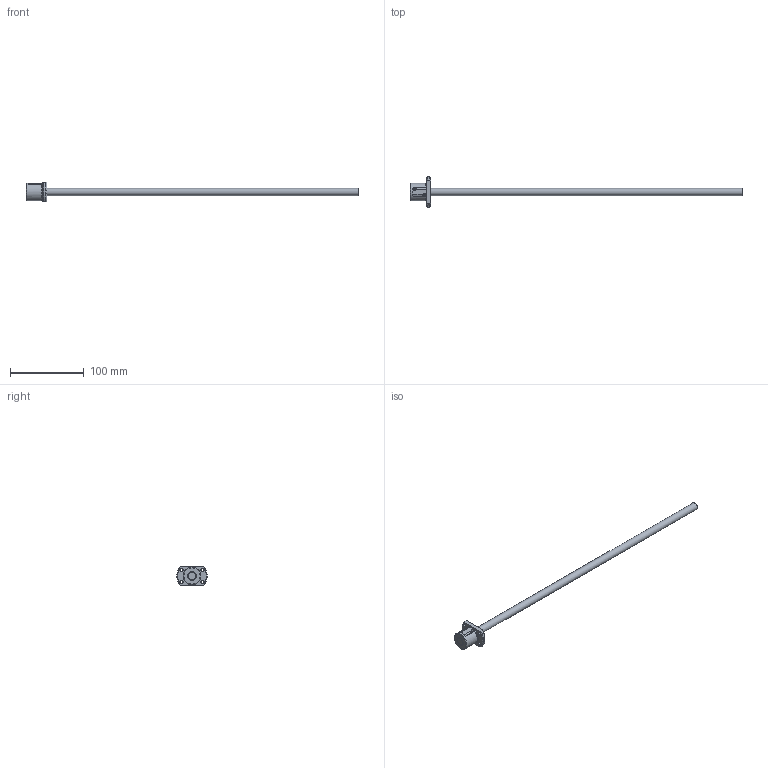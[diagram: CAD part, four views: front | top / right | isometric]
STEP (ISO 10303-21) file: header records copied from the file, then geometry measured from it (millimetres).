
FILE_DESCRIPTION( ( 'STEP AP203' ), '1' );
FILE_NAME( 'e:/temp/worker_101/temp/exporttempdir_1584_1732_41sAR/format_0/SR1004-450R450C10(0).stp', '2021-10-19T03:59:07', ( 'License CC BY-ND 4.0' ), ( 'CADENAS' ), ' ', 'PARTsolutions', ' ' );
FILE_SCHEMA( ( 'CONFIG_CONTROL_DESIGN' ) );
Length unit declared in the file: millimetre
Products named in the file (3): SR1004-450R450C10(0); _SR1004C10(0)_shaft; _SR1004C10_nut
Assembly tree (2 placements, depth 2):
  SR1004-450R450C10(0)
    _SR1004C10(0)_shaft
    _SR1004C10_nut
Bounding box: 450 x 41 x 26 mm (x, y, z)
Volume: 47802.1 mm3; surface area: 19449.7 mm2
Topology: 2 solids, 2 shells, 50 faces, 125 edges, 82 vertices
Faces by surface type: plane 25, cylinder 20, cone 5
Full cylindrical faces by diameter (mm): 4.5 x4, 10 x2, 12.4 x2, 23.5 x1, 24 x1
Entity records: 1586 total; most frequent: CARTESIAN_POINT 307, DIRECTION 252, ORIENTED_EDGE 222, EDGE_CURVE 111, AXIS2_PLACEMENT_3D 104, VERTEX_POINT 79, EDGE_LOOP 74, FACE_OUTER_BOUND 60
